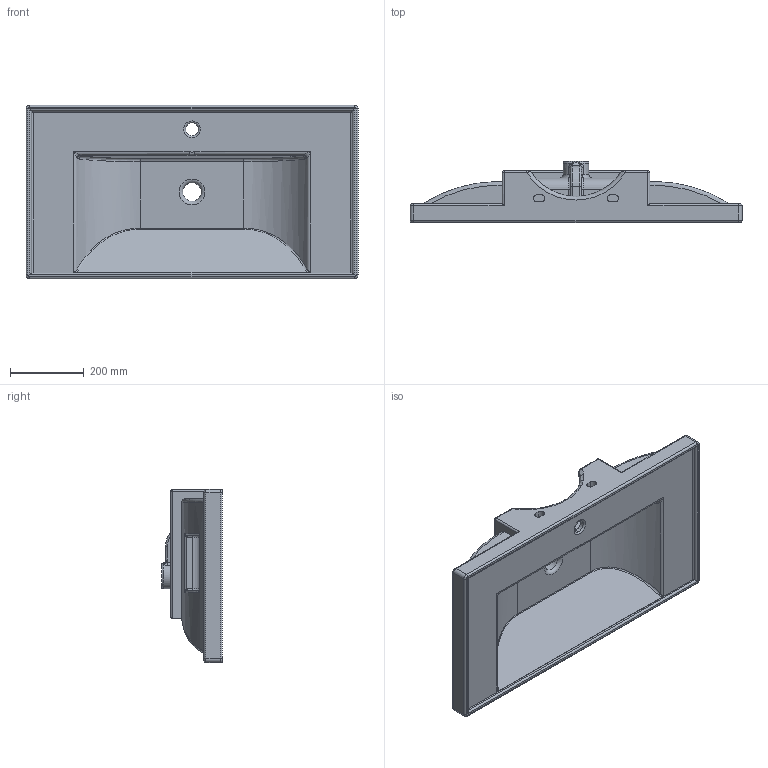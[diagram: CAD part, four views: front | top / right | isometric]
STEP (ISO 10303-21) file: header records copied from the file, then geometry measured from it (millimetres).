
FILE_DESCRIPTION( ( 'Unknown' ), '1' );
FILE_NAME( 'C:/Documents and Settings/s.pallini/Desktop/Scarabeo 17-6/Scarabeo 1-7/ML 90x47.stp', 'Unknown', ( 'Unknown' ), ( 'Unknown' ), 'PSStep 11.0', 'Unknown', ' ' );
FILE_SCHEMA( ( 'AUTOMOTIVE_DESIGN { 1 0 10303 214 1 1 1 1 }' ) );
Length unit declared in the file: millimetre
Products named in the file (1): 1
Bounding box: 900 x 165 x 470 mm (x, y, z)
Volume: 18095112.9 mm3; surface area: 1307413.6 mm2
Topology: 1 solids, 1 shells, 206 faces, 501 edges, 287 vertices
Faces by surface type: cylinder 86, plane 45, bspline 37, torus 36, sphere 2
Full cylindrical faces by diameter (mm): 20 x1, 35 x1, 50 x1
Entity records: 15955 total; most frequent: CARTESIAN_POINT 9740, ORIENTED_EDGE 956, DIRECTION 955, EDGE_CURVE 478, AXIS2_PLACEMENT_3D 382, VERTEX_POINT 284, EDGE_LOOP 224, FACE_OUTER_BOUND 212
